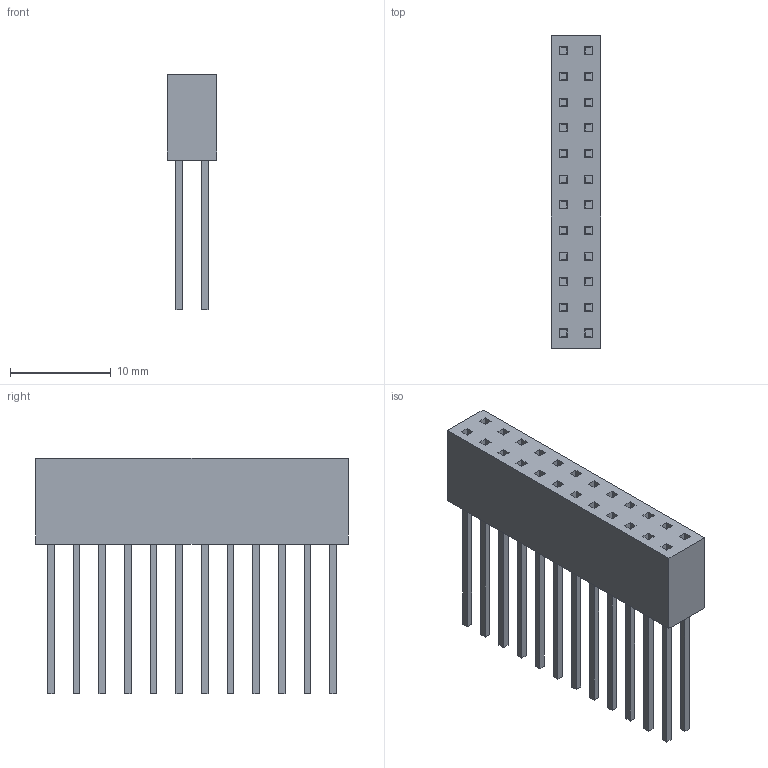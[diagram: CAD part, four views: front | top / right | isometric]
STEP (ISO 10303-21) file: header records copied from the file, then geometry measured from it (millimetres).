
FILE_DESCRIPTION(('FreeCAD Model'),'2;1');
FILE_NAME('Open CASCADE Shape Model','2026-10-14T23:10:09',('FreeCAD'),( 'FreeCAD'),'Open CASCADE STEP processor 7.9','FreeCAD','Unknown');
FILE_SCHEMA(('AUTOMOTIVE_DESIGN { 1 0 10303 214 1 1 1 1 }'));
Length unit declared in the file: millimetre
Products named in the file (1): Open CASCADE STEP translator 7.9 11
Bounding box: 4.95 x 30.99 x 23.34 mm (x, y, z)
Volume: 1370.9 mm3; surface area: 2472.2 mm2
Topology: 25 solids, 25 shells, 270 faces, 588 edges, 392 vertices
Faces by surface type: plane 270
Entity records: 7174 total; most frequent: CARTESIAN_POINT 1251, ORIENTED_EDGE 1176, DIRECTION 1130, EDGE_CURVE 588, LINE 588, VECTOR 588, VERTEX_POINT 392, FACE_BOUND 294
